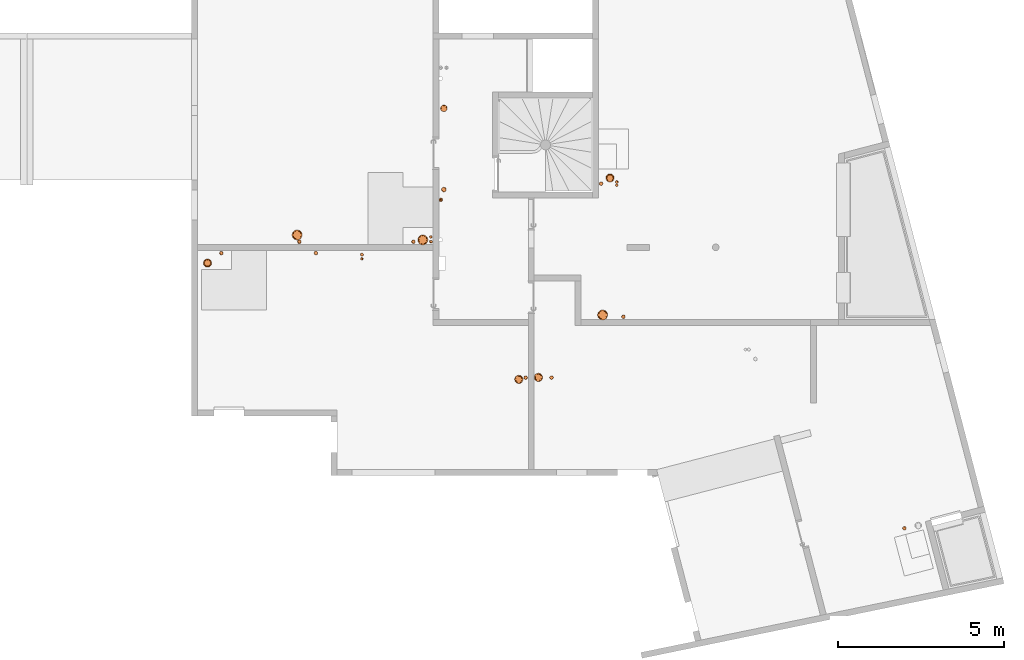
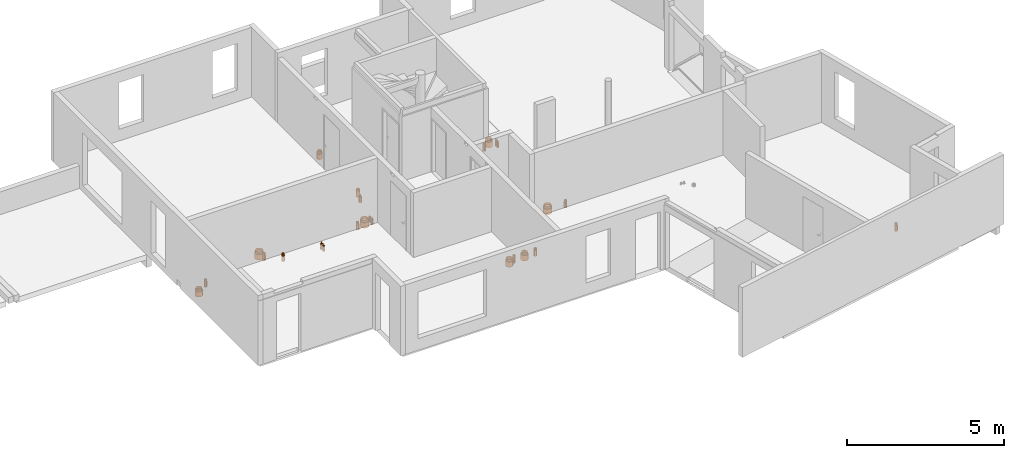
# One storey, part 22 of 24: 25 proxies.
"""IFC2X3 building model written with IfcOpenShell, lengths in centimetres."""

from ifc_helpers import new_model, entity, si_unit, converted_unit, derived_unit, direction, frame, frame_2d, origin, place, context, subcontext, project, spatial, circle, hollow_circle, extrude, source, transform, mapped, material, type_object, type_shapes, element, save


model = new_model("IFC2X3")

# Units and contexts
model_context = context("Model", 3, precision=0.001, world=origin(), true_north=direction((6.12303176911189e-17, 1.0)))
body_context = subcontext(model_context, "Body", "Model", "MODEL_VIEW")
ifc_project = project(units=[si_unit("LENGTHUNIT", "METRE", prefix="CENTI"), si_unit("AREAUNIT", "SQUARE_METRE"), si_unit("VOLUMEUNIT", "CUBIC_METRE"), converted_unit("PLANEANGLEUNIT", "DEGREE", entity("IfcRatioMeasure", 0.0174532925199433), si_unit("PLANEANGLEUNIT", "RADIAN"), dimensions=[0, 0, 0, 0, 0, 0, 0]), si_unit("MASSUNIT", "GRAM", prefix="KILO"), derived_unit("MASSDENSITYUNIT", [(si_unit("MASSUNIT", "GRAM", prefix="KILO"), 1), (si_unit("LENGTHUNIT", "METRE"), -3)]), si_unit("TIMEUNIT", "SECOND"), si_unit("FREQUENCYUNIT", "HERTZ"), si_unit("THERMODYNAMICTEMPERATUREUNIT", "DEGREE_CELSIUS"), derived_unit("THERMALTRANSMITTANCEUNIT", [(si_unit("MASSUNIT", "GRAM", prefix="KILO"), 1), (si_unit("THERMODYNAMICTEMPERATUREUNIT", "KELVIN"), -1), (si_unit("TIMEUNIT", "SECOND"), -3)]), derived_unit("VOLUMETRICFLOWRATEUNIT", [(si_unit("LENGTHUNIT", "METRE"), 3), (si_unit("TIMEUNIT", "SECOND"), -1)]), si_unit("ELECTRICCURRENTUNIT", "AMPERE"), si_unit("ELECTRICVOLTAGEUNIT", "VOLT"), si_unit("POWERUNIT", "WATT"), si_unit("FORCEUNIT", "NEWTON"), si_unit("ILLUMINANCEUNIT", "LUX"), si_unit("LUMINOUSFLUXUNIT", "LUMEN"), si_unit("LUMINOUSINTENSITYUNIT", "CANDELA"), derived_unit("USERDEFINED", [(si_unit("MASSUNIT", "GRAM", prefix="KILO"), -1), (si_unit("LENGTHUNIT", "METRE"), -2), (si_unit("TIMEUNIT", "SECOND"), 3), (si_unit("LUMINOUSFLUXUNIT", "LUMEN"), 1)]), derived_unit("LINEARVELOCITYUNIT", [(si_unit("LENGTHUNIT", "METRE"), 1), (si_unit("TIMEUNIT", "SECOND"), -1)]), si_unit("PRESSUREUNIT", "PASCAL"), derived_unit("USERDEFINED", [(si_unit("LENGTHUNIT", "METRE"), -2), (si_unit("MASSUNIT", "GRAM", prefix="KILO"), 1), (si_unit("TIMEUNIT", "SECOND"), -2)])], contexts=[model_context])

# Site, building, storey
site_placement = place(None, origin())
site = spatial("IfcSite", under=ifc_project, at=site_placement, Name="Default", CompositionType="ELEMENT")
building_placement = place(site_placement, origin())
building = spatial("IfcBuilding", under=site, at=building_placement, Name="CAGE 03", CompositionType="ELEMENT")
storey_placement = place(building_placement, frame((0.0, 0.0, 880.0)))
storey = spatial("IfcBuildingStorey", under=building, at=storey_placement, Name="R+3", CompositionType="ELEMENT", Elevation=880.0)

# Proxies
ifc_material_1 = material(Name="Conduit EU")
building_element_proxy_type_1 = type_object("IfcBuildingElementProxyType", Name="CFO125 P110", PredefinedType="NOTDEFINED", material=ifc_material_1)
shared_shape_1 = source(origin(), body_context, "Body", "SweptSolid", [
    extrude(circle(Radius=5.5, at=frame_2d((0.0, -8.88549515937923e-15), x_axis=(1.0, 0.0))), frame((0.0, 0.0, -21.0)), (0.0, 0.0, 1.0), 21.0),
    extrude(hollow_circle(Radius=5.0, WallThickness=0.25, at=frame_2d((0.0, -8.07772287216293e-15), x_axis=(1.0, 0.0))), frame((0.0, 0.0, -21.0)), (0.0, 0.0, 1.0), 28.5),
])
type_shapes(building_element_proxy_type_1, [shared_shape_1])
for number, where, name in (
    (1, (10516.3610475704, 4675.41484953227, -4.4699953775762e-07), "Galette - Résa - PVC2:CFO125 P110"),
    (2, (10583.5881388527, 4274.95220023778, -4.4699953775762e-07), "Galette - Résa - PVC2:CFO125 P110"),
):
    element("IfcBuildingElementProxy", number, at=place(storey_placement, frame(where)), inside=storey, type_object=building_element_proxy_type_1, material=ifc_material_1, Name=name, ObjectType="CFO125 P110", context=body_context, shape_type="MappedRepresentation", body=[
        mapped(shared_shape_1, transform((0.0, 0.0, 0.0), scale=1.0)),
    ])
proxy_1_placement = place(storey_placement, frame((11428.9637022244, 3638.21161603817, -4.4699953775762e-07), z_axis=(0.0, 0.0, 1.0), x_axis=(0.96754998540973, 0.252679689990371, 0.0)))
element("IfcBuildingElementProxy", 3, at=proxy_1_placement, inside=storey, type_object=building_element_proxy_type_1, material=ifc_material_1, Name="Galette - Résa - PVC2:CFO125 P110", ObjectType="CFO125 P110", context=body_context, shape_type="MappedRepresentation", body=[
    mapped(shared_shape_1, transform((0.0, 0.0, 0.0), scale=1.0)),
])
for number, where, name in (
    (4, (10289.3612124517, 4091.78429255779, -4.4699953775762e-07), "Galette - Résa - PVC2:CFO125 P110"),
    (5, (10367.3017612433, 4091.78416513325, -4.4699953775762e-07), "Galette - Résa - PVC2:CFO125 P110"),
    (6, (9658.56743117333, 4466.46418000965, -4.4699953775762e-07), "Galette - Résa - PVC2:CFO125 P110"),
    (7, (9374.03856475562, 4466.282688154, -4.4699953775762e-07), "Galette - Résa - PVC2:CFO125 P110"),
    (8, (9951.51198540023, 4500.43298935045, -4.4699953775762e-07), "Galette - Résa - PVC2:CFO125 P110"),
    (9, (9608.38501235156, 4500.4366358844, -4.4699953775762e-07), "Galette - Résa - PVC2:CFO125 P110"),
):
    element("IfcBuildingElementProxy", number, at=place(storey_placement, frame(where)), inside=storey, type_object=building_element_proxy_type_1, material=ifc_material_1, Name=name, ObjectType="CFO125 P110", context=body_context, shape_type="MappedRepresentation", body=[
        mapped(shared_shape_1, transform((0.0, 0.0, 0.0), scale=1.0)),
    ])
ifc_material_2 = material(Name="Conduit VMC")
building_element_proxy_type_2 = type_object("IfcBuildingElementProxyType", Name="CFO235 P210", PredefinedType="NOTDEFINED", material=ifc_material_2)
shared_shape_2 = source(origin(), body_context, "Body", "SweptSolid", [
    extrude(circle(Radius=12.5, at=frame_2d((0.0, -2.01943071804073e-14), x_axis=(1.0, 0.0))), frame((0.0, 0.0, -21.0)), (0.0, 0.0, 1.0), 21.0),
    extrude(hollow_circle(Radius=10.0, WallThickness=0.5, at=frame_2d((0.0, -1.61554457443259e-14), x_axis=(1.0, 0.0))), frame((0.0, 0.0, -21.0)), (0.0, 0.0, 1.0), 28.5),
])
type_shapes(building_element_proxy_type_2, [shared_shape_2])
for number, where, name in (
    (10, (10543.3017682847, 4692.50517539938, -4.4699953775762e-07), "Galette - Résa - PVC2:CFO235 P210"),
    (11, (10327.9230662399, 4092.36946065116, -4.4699953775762e-07), "Galette - Résa - PVC2:CFO235 P210"),
    (12, (10268.9349519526, 4086.28265819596, -4.4699953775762e-07), "Galette - Résa - PVC2:CFO235 P210"),
    (13, (9332.31391271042, 4436.40500268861, -4.4699953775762e-07), "Galette - Résa - PVC2:CFO235 P210"),
):
    element("IfcBuildingElementProxy", number, at=place(storey_placement, frame(where)), inside=storey, type_object=building_element_proxy_type_2, material=ifc_material_2, Name=name, ObjectType="CFO235 P210", context=body_context, shape_type="MappedRepresentation", body=[
        mapped(shared_shape_2, transform((0.0, 0.0, 0.0), scale=1.0)),
    ])
ifc_material_3 = material(Name="Circuit ECS Retour")
building_element_proxy_type_3 = type_object("IfcBuildingElementProxyType", Name="CFO100 P80", PredefinedType="NOTDEFINED", material=ifc_material_3)
shared_shape_3 = source(origin(), body_context, "Body", "SweptSolid", [
    extrude(circle(Radius=4.0, at=frame_2d((0.0, -6.46217829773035e-15), x_axis=(1.0, 0.0))), frame((0.0, 0.0, -21.0)), (0.0, 0.0, 1.0), 21.0),
    extrude(hollow_circle(Radius=1.0, WallThickness=0.0500000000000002, at=frame_2d((0.0, -1.61554457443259e-15), x_axis=(1.0, 0.0))), frame((0.0, 0.0, -21.0)), (0.0, 0.0, 1.0), 28.5),
])
type_shapes(building_element_proxy_type_3, [shared_shape_3])
for number, where, name in (
    (14, (10563.7225319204, 4670.18910916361, -4.4699953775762e-07), "Galette - Résa - PVC2:CFO100 P80"),
    (15, (9796.97191642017, 4448.90360229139, -4.4699953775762e-07), "Galette - Résa - PVC2:CFO100 P80"),
    (16, (10004.3066082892, 4514.90367083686, -4.4699953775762e-07), "Galette - Résa - PVC2:CFO100 P80"),
):
    element("IfcBuildingElementProxy", number, at=place(storey_placement, frame(where)), inside=storey, type_object=building_element_proxy_type_3, material=ifc_material_3, Name=name, ObjectType="CFO100 P80", context=body_context, shape_type="MappedRepresentation", body=[
        mapped(shared_shape_3, transform((0.0, 0.0, 0.0), scale=1.0)),
    ])
ifc_material_4 = material(Name="Circuit ECS Aller")
building_element_proxy_type_4 = type_object("IfcBuildingElementProxyType", Name="CFO100 P90", PredefinedType="NOTDEFINED", material=ifc_material_4)
shared_shape_4 = source(origin(), body_context, "Body", "SweptSolid", [
    extrude(circle(Radius=4.5, at=frame_2d((0.0, -7.26995058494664e-15), x_axis=(1.0, 0.0))), frame((0.0, 0.0, -21.0)), (0.0, 0.0, 1.0), 21.0),
    extrude(hollow_circle(Radius=1.6, WallThickness=0.05, at=frame_2d((0.0, -2.58487131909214e-15), x_axis=(1.0, 0.0))), frame((0.0, 0.0, -21.0)), (0.0, 0.0, 1.0), 28.5),
])
type_shapes(building_element_proxy_type_4, [shared_shape_4])
for number, where, name in (
    (17, (10563.7225319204, 4680.14295650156, -4.4699953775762e-07), "Galette - Résa - PVC2:CFO100 P90"),
    (18, (9796.97191642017, 4461.65360229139, -4.4699953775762e-07), "Galette - Résa - PVC2:CFO100 P90"),
    (19, (10004.3066082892, 4500.43298935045, -4.4699953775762e-07), "Galette - Résa - PVC2:CFO100 P90"),
):
    element("IfcBuildingElementProxy", number, at=place(storey_placement, frame(where)), inside=storey, type_object=building_element_proxy_type_4, material=ifc_material_4, Name=name, ObjectType="CFO100 P90", context=body_context, shape_type="MappedRepresentation", body=[
        mapped(shared_shape_4, transform((0.0, 0.0, 0.0), scale=1.0)),
    ])
building_element_proxy_type_5 = type_object("IfcBuildingElementProxyType", Name="CFO285 P260", PredefinedType="NOTDEFINED", material=ifc_material_2)
shared_shape_5 = source(origin(), body_context, "Body", "SweptSolid", [
    extrude(circle(Radius=15.0, at=frame_2d((0.0, -2.42331686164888e-14), x_axis=(1.0, 0.0))), frame((0.0, 0.0, -21.0)), (0.0, 0.0, 1.0), 21.0),
    extrude(hollow_circle(Radius=12.5, WallThickness=0.499999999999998, at=frame_2d((0.0, -2.01943071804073e-14), x_axis=(1.0, 0.0))), frame((0.0, 0.0, -21.0)), (0.0, 0.0, 1.0), 28.5),
])
type_shapes(building_element_proxy_type_5, [shared_shape_5])
for number, where, name in (
    (20, (10521.0266728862, 4280.19633996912, -4.4699953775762e-07), "Galette - Résa - PVC2:CFO285 P260"),
    (21, (9980.14441648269, 4505.98818311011, -4.4699953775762e-07), "Galette - Résa - PVC2:CFO285 P260"),
    (22, (9601.89552831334, 4520.87657578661, -4.4699953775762e-07), "Galette - Résa - PVC2:CFO285 P260"),
):
    element("IfcBuildingElementProxy", number, at=place(storey_placement, frame(where)), inside=storey, type_object=building_element_proxy_type_5, material=ifc_material_2, Name=name, ObjectType="CFO285 P260", context=body_context, shape_type="MappedRepresentation", body=[
        mapped(shared_shape_5, transform((0.0, 0.0, 0.0), scale=1.0)),
    ])
ifc_material_5 = material(Name="Conduit EP")
building_element_proxy_type_6 = type_object("IfcBuildingElementProxyType", Name="EP 161", PredefinedType="NOTDEFINED", material=ifc_material_5)
shared_shape_6 = source(origin(), body_context, "Body", "SweptSolid", [
    extrude(circle(Radius=10.0, at=frame_2d((0.0, -1.61554457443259e-14), x_axis=(1.0, 0.0))), frame((0.0, 0.0, -21.0)), (0.0, 0.0, 1.0), 21.0),
    extrude(hollow_circle(Radius=8.0, WallThickness=0.250000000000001, at=frame_2d((0.0, -1.29243565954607e-14), x_axis=(1.0, 0.0))), frame((0.0, 0.0, -21.0)), (0.0, 0.0, 1.0), 28.5),
])
type_shapes(building_element_proxy_type_6, [shared_shape_6])
proxy_2_placement = place(storey_placement, frame((10043.4873261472, 4901.76973145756, -4.4699953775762e-07)))
element("IfcBuildingElementProxy", 23, at=proxy_2_placement, inside=storey, type_object=building_element_proxy_type_6, material=ifc_material_5, Name="Galette - Résa - PVC2:EP 161", ObjectType="EP 161", context=body_context, shape_type="MappedRepresentation", body=[
    mapped(shared_shape_6, transform((0.0, 0.0, 0.0), scale=1.0)),
])
building_element_proxy_type_7 = type_object("IfcBuildingElementProxyType", Name="EP 126", PredefinedType="NOTDEFINED", material=ifc_material_5)
shared_shape_7 = source(origin(), body_context, "Body", "SweptSolid", [
    extrude(circle(Radius=7.0, at=frame_2d((0.0, -1.13088120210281e-14), x_axis=(1.0, 0.0))), frame((0.0, 0.0, -21.0)), (0.0, 0.0, 1.0), 21.0),
    extrude(hollow_circle(Radius=6.25, WallThickness=0.25, at=frame_2d((0.0, -1.00971535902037e-14), x_axis=(1.0, 0.0))), frame((0.0, 0.0, -21.0)), (0.0, 0.0, 1.0), 28.5),
])
type_shapes(building_element_proxy_type_7, [shared_shape_7])
proxy_3_placement = place(storey_placement, frame((10043.5548418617, 4657.41074661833, -4.4699953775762e-07)))
element("IfcBuildingElementProxy", 24, at=proxy_3_placement, inside=storey, type_object=building_element_proxy_type_7, material=ifc_material_5, Name="Galette - Résa - PVC2:EP 126", ObjectType="EP 126", context=body_context, shape_type="MappedRepresentation", body=[
    mapped(shared_shape_7, transform((0.0, 0.0, 0.0), scale=1.0)),
])
ifc_material_6 = material(Name="Circuit EF")
building_element_proxy_type_8 = type_object("IfcBuildingElementProxyType", Name="EF 50", PredefinedType="NOTDEFINED", material=ifc_material_6)
shared_shape_8 = source(origin(), body_context, "Body", "SweptSolid", [
    extrude(circle(Radius=5.5, at=frame_2d((0.0, -8.88549515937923e-15), x_axis=(1.0, 0.0))), frame((0.0, 0.0, -21.0)), (0.0, 0.0, 1.0), 21.0),
    extrude(hollow_circle(Radius=2.5, WallThickness=0.9, at=frame_2d((0.0, -4.03886143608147e-15), x_axis=(1.0, 0.0))), frame((0.0, 0.0, -21.0)), (0.0, 0.0, 1.0), 28.5),
])
type_shapes(building_element_proxy_type_8, [shared_shape_8])
proxy_4_placement = place(storey_placement, frame((10034.3657978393, 4626.41657255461, -4.4699953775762e-07)))
element("IfcBuildingElementProxy", 25, at=proxy_4_placement, inside=storey, type_object=building_element_proxy_type_8, material=ifc_material_6, Name="Galette - Résa - PVC2:EF 50", ObjectType="EF 50", context=body_context, shape_type="MappedRepresentation", body=[
    mapped(shared_shape_8, transform((0.0, 0.0, 0.0), scale=1.0)),
])

save(model, "model.ifc")
